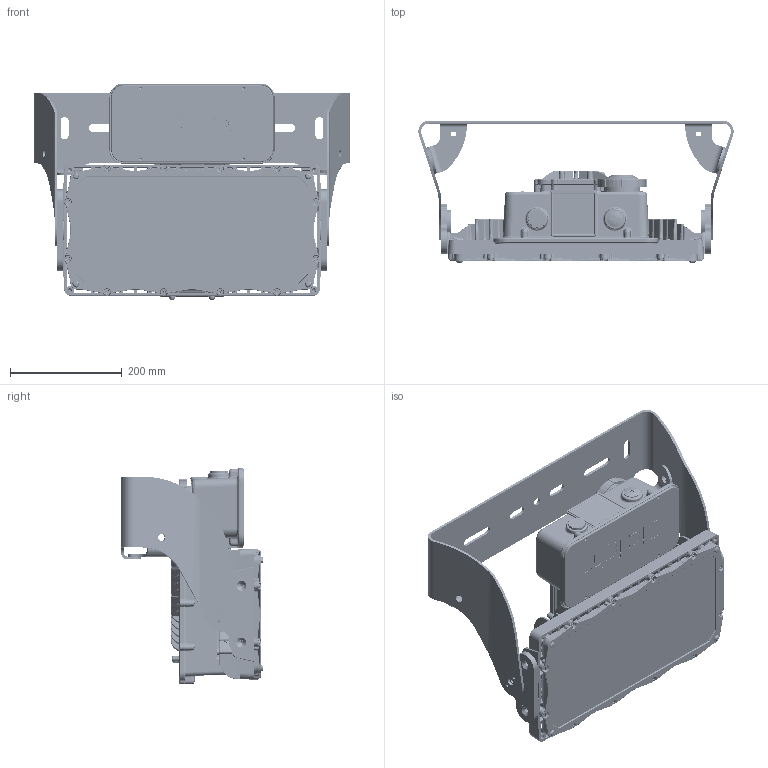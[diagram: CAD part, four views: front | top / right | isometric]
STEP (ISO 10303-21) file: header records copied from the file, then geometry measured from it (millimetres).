
FILE_DESCRIPTION((''),'2;1');
FILE_NAME('8F1_RIGID_MOUNT_BRACKET_ASM','2024-01-17T14:35:20',('NSharma'),(''),'CREO PARAMETRIC BY PTC INC, 2021304','CREO PARAMETRIC BY PTC INC, 2021304','');
FILE_SCHEMA(('CONFIG_CONTROL_DESIGN'));
Products named in the file (26): 3998FLM000100; 2100GPL000100; 6200EUL000201; 3998FLM000300; 8800FLMLEXXXX_ASM; 3050FLM000100; 8800FLM0008XX_ASM; 3050FLM000300; 8800FLM0002XX_ALT_ASM; 3550FLM000100; 4700FLM000100; 6000FLM000100; 8800FLM0003XX_ASM; 1800FLM001600; 1800FLM000230; 1800FLM000240; 1800FLM000240_ASM; 1800FLM000250; 1800FLM000250_ASM; 8800FLM000520_ASM; 1800FLM001200; 9300STL000401; 9300STL000403; SLXXXXX_PHOTOCELL_ASM; 9300STL000402; 8F1_RIGID_MOUNT_BRACKET_ASM
Assembly tree (38 placements, depth 4):
  8F1_RIGID_MOUNT_BRACKET_ASM
    3998FLM000100
    2100GPL000100
    6200EUL000201
    8800FLMLEXXXX_ASM
      3998FLM000300
    8800FLM0008XX_ASM
      3050FLM000100
    8800FLM0002XX_ALT_ASM
      3050FLM000300
    8800FLM0003XX_ASM
      3550FLM000100
      4700FLM000100
      6000FLM000100  x12
    1800FLM001600  x2
    8800FLM000520_ASM
      1800FLM000230
      1800FLM000240_ASM
        1800FLM000240
      1800FLM000250_ASM
        1800FLM000250
    1800FLM001200  x2
    SLXXXXX_PHOTOCELL_ASM
      9300STL000401
      9300STL000403
    9300STL000402
Bounding box: 565.48 x 254.83 x 389.04 mm (x, y, z)
Volume: 4108317.9 mm3; surface area: 1908684 mm2
Topology: 31 solids, 212 shells, 18538 faces, 43133 edges, 24863 vertices
Faces by surface type: bspline 5883, cylinder 5360, plane 3493, cone 1774, torus 1530, sphere 498
Entity records: 829372 total; most frequent: CARTESIAN_POINT 478173, ORIENTED_EDGE 78950, DIRECTION 64712, EDGE_CURVE 39857, AXIS2_PLACEMENT_3D 26046, VERTEX_POINT 22908, EDGE_LOOP 18155, FACE_OUTER_BOUND 17459
